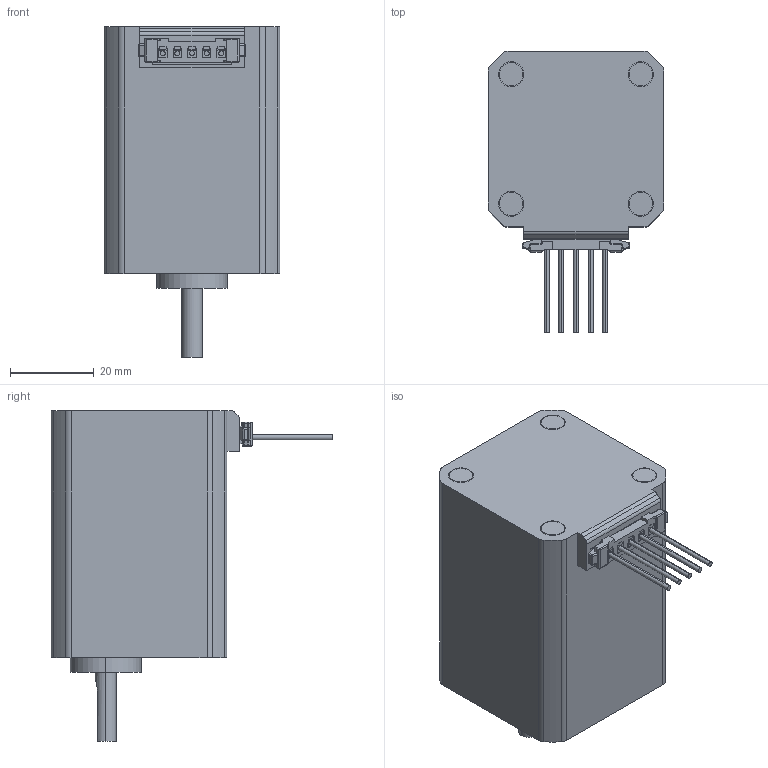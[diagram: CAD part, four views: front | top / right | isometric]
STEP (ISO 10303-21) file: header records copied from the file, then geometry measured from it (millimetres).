
FILE_DESCRIPTION (( 'STEP AP203' ), '1' );
FILE_NAME ('B1339A.step', '2022-10-28T08:13:45', ( '' ), ( '' ), 'SwSTEP 2.0', 'SolidWorks 2020', '' );
FILE_SCHEMA (( 'CONFIG_CONTROL_DESIGN' ));
Length unit declared in the file: millimetre
Products named in the file (1): B1339A
Bounding box: 42 x 67.3 x 79 mm (x, y, z)
Volume: 103864.4 mm3; surface area: 15783.5 mm2
Topology: 2 solids, 16 shells, 469 faces, 1154 edges, 734 vertices
Faces by surface type: plane 319, cylinder 116, sphere 12, bspline 10, cone 8, torus 4
Entity records: 13653 total; most frequent: CARTESIAN_POINT 2603, ORIENTED_EDGE 2272, DIRECTION 2222, EDGE_CURVE 1136, LINE 872, VECTOR 872, VERTEX_POINT 732, AXIS2_PLACEMENT_3D 675
